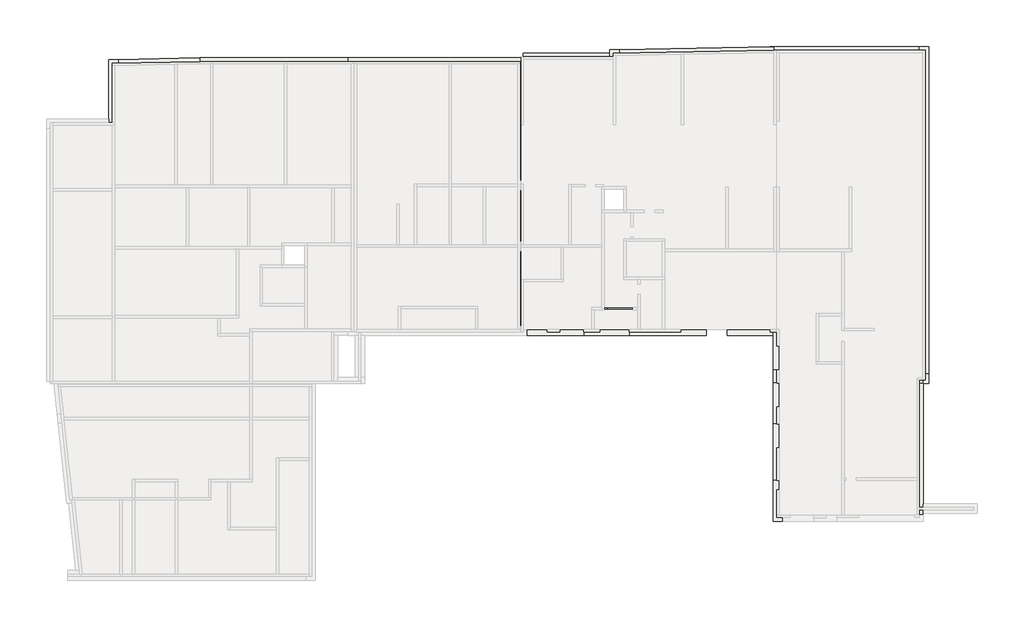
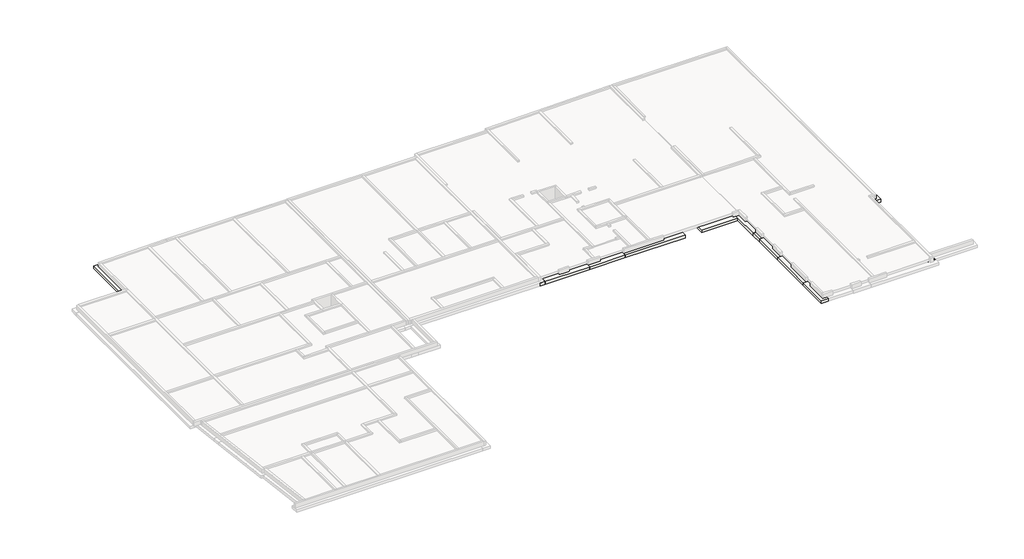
# One storey, part 5 of 5: 56 footings.
"""IFC4 building model written with IfcOpenShell, lengths in millimetres."""

from ifc_helpers import new_model, si_unit, frame, origin, place, context, project, spatial, polyline, outline, extrude, faceted_brep, element, save

model = new_model("IFC4")

# Units and contexts
model_context = context("Model", 3, world=origin())
ifc_project = project(units=[si_unit("LENGTHUNIT", "METRE", prefix="MILLI")], contexts=[model_context])

# Site, building, storey
site = spatial("IfcSite", under=ifc_project)
building = spatial("IfcBuilding", under=site)
storey = spatial("IfcBuildingStorey", under=building, Name="Base Mur soubassement", Elevation=-480.0)

# Footings
placement = place(None, origin())
element("IfcFooting", 1, ObjectType="Soubassement 30 cm/30 cm x 30 cm", at=placement, inside=storey, context=model_context, shape_type="Brep", body=[
    faceted_brep([(23329.3002373, 36682.4079561, -480.0), (24379.3002373, 36682.4079561, -480.0), (31528.7587922, 36682.4079561, -480.0), (32328.7587922, 36682.4079561, -480.0), (37308.398272, 36682.4079561, -480.0), (38358.398272, 36682.4079561, -480.0), (38358.398272, 37080.5992191, -480.0), (38358.398272, 37482.4079561, -480.0), (38068.6597873, 37482.4079561, -480.0), (23329.3002373, 37482.4079561, -480.0), (23329.3002373, 37482.4079561, -780.0), (38358.398272, 37482.4079561, -780.0), (38068.6597873, 37482.4079561, -780.0), (23329.3002373, 36682.4079561, -780.0), (38358.398272, 37080.5992191, -780.0), (38358.398272, 36682.4079561, -780.0), (37308.398272, 36682.4079561, -780.0), (32328.7587922, 36682.4079561, -780.0), (31528.7587922, 36682.4079561, -780.0), (24379.3002373, 36682.4079561, -780.0)], [[[0, 1, 2, 3, 4, 5, 6, 7, 8, 9]], [[10, 9, 8, 7, 11, 12]], [[13, 10, 12, 11, 14, 15, 16, 17, 18, 19]], [[0, 13, 19, 18, 17, 16, 15, 5, 4, 3, 2, 1]], [[0, 9, 10, 13]], [[7, 6, 5, 15, 14, 11]]]),
])
element("IfcFooting", 2, ObjectType="Soubassement 30 cm/30 cm x 30 cm", at=placement, inside=storey, context=model_context, shape_type="SweptSolid", body=[
    extrude(outline(polyline([(34393.5365752, 26372.4500352), (35193.5365752, 26372.4500352), (35193.5365752, 22073.8066571), (34393.5365752, 22073.8066571), (34393.5365752, 26372.4500352)])), frame((0.0, 0.0, -780.0), z_axis=(0.0, 0.0, 1.0), x_axis=(1.0, 0.0, 0.0)), (0.0, 0.0, 1.0), 300.0),
])
element("IfcFooting", 3, ObjectType="Soubassement 30 cm/30 cm x 30 cm", at=placement, inside=storey, context=model_context, shape_type="Brep", body=[
    faceted_brep([(4056.9078335, 32028.092309, -480.0), (3256.9078335, 32028.092309, -480.0), (3256.9078335, 32028.092309, -780.0), (4056.9078335, 32028.092309, -780.0), (4056.9078335, 36546.0880565, -480.0), (4056.9078335, 37346.2466037, -480.0), (3256.9078335, 37330.3186215, -480.0), (3256.9078335, 32328.092309, -480.0), (3256.9078335, 37330.3186215, -780.0), (3256.9078335, 32328.092309, -780.0), (4056.9078335, 37346.2466037, -780.0), (4056.9078335, 36546.0880565, -780.0)], [[[0, 1, 2, 3]], [[0, 4, 5, 6, 7, 1]], [[2, 1, 7, 6, 8, 9]], [[3, 2, 9, 8, 10, 11]], [[0, 3, 11, 10, 5, 4]], [[6, 5, 10, 8]]]),
])
element("IfcFooting", 4, ObjectType="Soubassement 30 cm/30 cm x 30 cm", at=placement, inside=storey, context=model_context, shape_type="Brep", body=[
    faceted_brep([(10903.7211106, 36682.4079561, -480.0), (10895.7579086, 37482.4079561, -480.0), (4056.9078335, 37346.2466037, -480.0), (4056.9078335, 36546.0880565, -480.0), (8517.5794193, 36634.8999283, -480.0), (9317.5794193, 36650.8279104, -480.0), (10895.7579086, 37482.4079561, -780.0), (4056.9078335, 37346.2466037, -780.0), (10903.7211106, 36682.4079561, -780.0), (9317.5794193, 36650.8279104, -780.0), (8517.5794193, 36634.8999283, -780.0), (4056.9078335, 36546.0880565, -780.0)], [[[0, 1, 2, 3, 4, 5]], [[1, 6, 7, 2]], [[6, 8, 9, 10, 11, 7]], [[8, 0, 5, 4, 3, 11, 10, 9]], [[3, 2, 7, 11]], [[1, 0, 8, 6]]]),
])
element("IfcFooting", 5, ObjectType="Soubassement 30 cm/30 cm x 30 cm", at=placement, inside=storey, context=model_context, shape_type="Brep", body=[
    faceted_brep([(10895.7579086, 37482.4079561, -480.0), (10903.7211106, 36682.4079561, -480.0), (11503.2656575, 36682.4079561, -480.0), (12303.2656575, 36682.4079561, -480.0), (17699.2548774, 36682.4079561, -480.0), (18499.2548774, 36682.4079561, -480.0), (23329.3002373, 36682.4079561, -480.0), (23329.3002373, 37482.4079561, -480.0), (10895.7579086, 37482.4079561, -780.0), (23329.3002373, 37482.4079561, -780.0), (10903.7211106, 36682.4079561, -780.0), (23329.3002373, 36682.4079561, -780.0), (18499.2548774, 36682.4079561, -780.0), (17699.2548774, 36682.4079561, -780.0), (12303.2656575, 36682.4079561, -780.0), (11503.2656575, 36682.4079561, -780.0)], [[[0, 1, 2, 3, 4, 5, 6, 7]], [[8, 0, 7, 9]], [[10, 8, 9, 11, 12, 13, 14, 15]], [[1, 10, 15, 14, 13, 12, 11, 6, 5, 4, 3, 2]], [[1, 0, 8, 10]], [[7, 6, 11, 9]]]),
])
element("IfcFooting", 6, ObjectType="Soubassement 30 cm/30 cm x 30 cm", at=placement, inside=storey, context=model_context, shape_type="Brep", body=[
    faceted_brep([(72098.498036, 10114.8529282, -480.0), (72098.498036, 38441.1158593, -480.0), (71298.498036, 38441.1158593, -480.0), (71298.498036, 37641.1158593, -480.0), (71298.498036, 15061.7009875, -480.0), (71298.498036, 14261.7009875, -480.0), (71298.498036, 10914.8529282, -480.0), (71298.498036, 10114.8529282, -480.0), (71617.0236897, 10114.8529282, -480.0), (71298.498036, 10114.8529282, -780.0), (71298.498036, 38441.1158593, -780.0), (71298.498036, 37641.1158593, -780.0), (71298.498036, 15061.7009875, -780.0), (71298.498036, 14261.7009875, -780.0), (71298.498036, 10914.8529282, -780.0), (72098.498036, 10114.8529282, -780.0), (71617.0236897, 10114.8529282, -780.0), (72098.498036, 38441.1158593, -780.0)], [[[0, 1, 2, 3, 4, 5, 6, 7, 8]], [[9, 7, 6, 5, 4, 3, 2, 10, 11, 12, 13, 14]], [[15, 16, 9, 14, 13, 12, 11, 10, 17]], [[0, 15, 17, 1]], [[0, 8, 7, 9, 16, 15]], [[2, 1, 17, 10]]]),
])
element("IfcFooting", 7, ObjectType="Soubassement 30 cm/30 cm x 30 cm", at=placement, inside=storey, context=model_context, shape_type="Brep", body=[
    faceted_brep([(71617.0236897, -917.313191, -780.0), (71617.0236897, -917.313191, -480.0), (70817.0236897, -917.313191, -480.0), (70817.0236897, -917.313191, -780.0), (70817.0236897, 10914.8529282, -480.0), (70817.0236897, 2504.0314703, -480.0), (70817.0236897, 1704.0314703, -480.0), (70817.0236897, -637.3118451, -480.0), (71617.0236897, -637.3118451, -480.0), (71617.0236897, 11.008028, -480.0), (71617.0236897, 10114.8529282, -480.0), (71298.498036, 10114.8529282, -480.0), (71298.498036, 10914.8529282, -480.0), (71617.0236897, -637.3118451, -780.0), (71617.0236897, 11.008028, -780.0), (71617.0236897, 10114.8529282, -780.0), (70817.0236897, -637.3118451, -780.0), (70817.0236897, 1704.0314703, -780.0), (70817.0236897, 2504.0314703, -780.0), (70817.0236897, 10914.8529282, -780.0), (71298.498036, 10914.8529282, -780.0), (71298.498036, 10114.8529282, -780.0)], [[[0, 1, 2, 3]], [[4, 5, 6, 7, 2, 1, 8, 9, 10, 11, 12]], [[1, 0, 13, 14, 15, 10, 9, 8]], [[0, 3, 16, 17, 18, 19, 20, 21, 15, 14, 13]], [[3, 2, 7, 6, 5, 4, 19, 18, 17, 16]], [[11, 21, 20, 12]], [[19, 4, 12, 20]], [[21, 11, 10, 15]]]),
])
element("IfcFooting", 8, ObjectType="Soubassement 30 cm/30 cm x 30 cm", at=placement, inside=storey, context=model_context, shape_type="Brep", body=[
    faceted_brep([(64513.2256523, 14241.7009875, -480.0), (65313.2256523, 14241.7009875, -480.0), (65313.2256523, 14241.7009875, -780.0), (64513.2256523, 14241.7009875, -780.0), (65313.2256523, -637.3118451, -480.0), (64513.2256523, 12249.233281, -480.0), (64513.2256523, 11449.233281, -480.0), (64513.2256523, -637.3118451, -480.0), (64513.2256523, -637.3118451, -780.0), (64513.2256523, 12249.233281, -780.0), (64513.2256523, 11449.233281, -780.0), (65313.2256523, -637.3118451, -780.0)], [[[0, 1, 2, 3]], [[4, 1, 0, 5, 6, 7]], [[8, 7, 6, 5, 0, 3, 9, 10]], [[11, 8, 10, 9, 3, 2]], [[4, 11, 2, 1]], [[4, 7, 8, 11]]]),
])
element("IfcFooting", 9, ObjectType="Soubassement 30 cm/30 cm x 30 cm", at=placement, inside=storey, context=model_context, shape_type="SweptSolid", body=[
    extrude(outline(polyline([(70817.0236897, 2504.0314703), (70817.0236897, 1704.0314703), (65324.2458389, 1704.0314703), (65324.2458389, 2504.0314703), (70817.0236897, 2504.0314703)])), frame((0.0, 0.0, -780.0), z_axis=(0.0, 0.0, 1.0), x_axis=(1.0, 0.0, 0.0)), (0.0, 0.0, 1.0), 300.0),
])
element("IfcFooting", 10, ObjectType="Soubassement 30 cm/30 cm x 30 cm", at=placement, inside=storey, context=model_context, shape_type="Brep", body=[
    faceted_brep([(62372.0019144, 12249.233281, -480.0), (62372.0019144, 11449.233281, -480.0), (64513.2256523, 11449.233281, -480.0), (64513.2256523, 12249.233281, -480.0), (63172.0019144, 12249.233281, -480.0), (62372.0019144, 11449.233281, -780.0), (64513.2256523, 11449.233281, -780.0), (62372.0019144, 12249.233281, -780.0), (63172.0019144, 12249.233281, -780.0), (64513.2256523, 12249.233281, -780.0)], [[[0, 1, 2, 3, 4]], [[1, 5, 6, 2]], [[5, 7, 8, 9, 6]], [[7, 0, 4, 3, 9, 8]], [[3, 2, 6, 9]], [[1, 0, 7, 5]]]),
])
element("IfcFooting", 11, ObjectType="Soubassement 30 cm/30 cm x 30 cm", at=placement, inside=storey, context=model_context, shape_type="Brep", body=[
    faceted_brep([(63172.0019144, 16304.7371374, -480.0), (62372.0019144, 16304.7371374, -480.0), (62372.0019144, 12249.233281, -480.0), (63172.0019144, 12249.233281, -480.0), (63172.0019144, 15504.7371374, -480.0), (62372.0019144, 16304.7371374, -780.0), (62372.0019144, 12249.233281, -780.0), (63172.0019144, 16304.7371374, -780.0), (63172.0019144, 15504.7371374, -780.0), (63172.0019144, 12249.233281, -780.0)], [[[0, 1, 2, 3, 4]], [[1, 5, 6, 2]], [[5, 7, 8, 9, 6]], [[7, 0, 4, 3, 9, 8]], [[3, 2, 6, 9]], [[1, 0, 7, 5]]]),
])
element("IfcFooting", 12, ObjectType="Soubassement 30 cm/30 cm x 30 cm", at=placement, inside=storey, context=model_context, shape_type="Brep", body=[
    faceted_brep([(64512.3933514, 20922.6249159, -480.0), (64512.3933514, 16304.7371374, -480.0), (64512.3933514, 15504.7371374, -480.0), (64512.3933514, 14261.7009875, -480.0), (65312.3933514, 14261.7009875, -480.0), (65312.3933514, 15061.7009875, -480.0), (65312.3933514, 20922.6249159, -480.0), (65312.3933514, 20922.6249159, -780.0), (65312.3933514, 14261.7009875, -780.0), (65312.3933514, 15061.7009875, -780.0), (64512.3933514, 20922.6249159, -780.0), (64512.3933514, 14261.7009875, -780.0), (64512.3933514, 15504.7371374, -780.0), (64512.3933514, 16304.7371374, -780.0)], [[[0, 1, 2, 3, 4, 5, 6]], [[7, 6, 5, 4, 8, 9]], [[10, 7, 9, 8, 11, 12, 13]], [[0, 10, 13, 12, 11, 3, 2, 1]], [[4, 3, 11, 8]], [[0, 6, 7, 10]]]),
])
element("IfcFooting", 13, ObjectType="Soubassement 30 cm/30 cm x 30 cm", at=placement, inside=storey, context=model_context, shape_type="SweptSolid", body=[
    extrude(outline(polyline([(64512.3933514, 16304.7371374), (64512.3933514, 15504.7371374), (63172.0019144, 15504.7371374), (63172.0019144, 16304.7371374), (64512.3933514, 16304.7371374)])), frame((0.0, 0.0, -780.0), z_axis=(0.0, 0.0, 1.0), x_axis=(1.0, 0.0, 0.0)), (0.0, 0.0, 1.0), 300.0),
])
element("IfcFooting", 14, ObjectType="Soubassement 30 cm/30 cm x 30 cm", at=placement, inside=storey, context=model_context, shape_type="SweptSolid", body=[
    extrude(outline(polyline([(65312.3933514, 14261.7009875), (65312.3933514, 15061.7009875), (71298.498036, 15061.7009875), (71298.498036, 14261.7009875), (65312.3933514, 14261.7009875)])), frame((0.0, 0.0, -780.0), z_axis=(0.0, 0.0, 1.0), x_axis=(1.0, 0.0, 0.0)), (0.0, 0.0, 1.0), 300.0),
])
element("IfcFooting", 15, ObjectType="Soubassement 30 cm/30 cm x 30 cm", at=placement, inside=storey, context=model_context, shape_type="Brep", body=[
    faceted_brep([(59853.8975177, 11276.7065018, -480.0), (59852.9134361, 11276.7065018, -480.0), (59053.8975177, 11276.7065018, -480.0), (59053.8975177, 11276.7065018, -780.0), (59852.9134361, 11276.7065018, -780.0), (59853.8975177, 11276.7065018, -780.0), (59053.8975177, 14660.5941452, -480.0), (59853.8975177, 14660.5941452, -480.0), (59853.8975177, 14660.5941452, -780.0), (59053.8975177, 14660.5941452, -780.0), (59053.8975177, 14157.8380715, -480.0), (59053.8975177, 14157.8380715, -780.0)], [[[0, 1, 2, 3, 4, 5]], [[6, 7, 8, 9]], [[0, 7, 6, 10, 2, 1]], [[3, 2, 10, 6, 9, 11]], [[5, 4, 3, 11, 9, 8]], [[0, 5, 8, 7]]]),
])
element("IfcFooting", 16, ObjectType="Soubassement 30 cm/30 cm x 30 cm", at=placement, inside=storey, context=model_context, shape_type="Brep", body=[
    faceted_brep([(59852.9134361, 10176.7065018, -480.0), (59053.8975177, 10176.7065018, -480.0), (59052.9134361, 10176.7065018, -480.0), (59052.9134361, 10176.7065018, -780.0), (59053.8975177, 10176.7065018, -780.0), (59852.9134361, 10176.7065018, -780.0), (59052.9134361, 11276.7065018, -480.0), (59053.8975177, 11276.7065018, -480.0), (59852.9134361, 11276.7065018, -480.0), (59852.9134361, 11276.7065018, -780.0), (59053.8975177, 11276.7065018, -780.0), (59052.9134361, 11276.7065018, -780.0)], [[[0, 1, 2, 3, 4, 5]], [[6, 7, 8, 9, 10, 11]], [[0, 8, 7, 6, 2, 1]], [[3, 2, 6, 11]], [[5, 4, 3, 11, 10, 9]], [[0, 5, 9, 8]]]),
])
element("IfcFooting", 17, ObjectType="Soubassement 30 cm/30 cm x 30 cm", at=placement, inside=storey, context=model_context, shape_type="Brep", body=[
    faceted_brep([(59853.8975177, 6727.955072, -480.0), (59053.8975177, 6727.955072, -480.0), (59053.8975177, 6727.955072, -780.0), (59853.8975177, 6727.955072, -780.0), (59053.8975177, 10176.7065018, -480.0), (59852.9134361, 10176.7065018, -480.0), (59853.8975177, 10176.7065018, -480.0), (59853.8975177, 10176.7065018, -780.0), (59852.9134361, 10176.7065018, -780.0), (59053.8975177, 10176.7065018, -780.0)], [[[0, 1, 2, 3]], [[4, 5, 6, 7, 8, 9]], [[0, 6, 5, 4, 1]], [[2, 1, 4, 9]], [[3, 2, 9, 8, 7]], [[0, 3, 7, 6]]]),
])
element("IfcFooting", 18, ObjectType="Soubassement 30 cm/30 cm x 30 cm", at=placement, inside=storey, context=model_context, shape_type="Brep", body=[
    faceted_brep([(59853.8975177, 1982.6881549, -480.0), (59852.8933514, 1982.6881549, -480.0), (59053.8975177, 1982.6881549, -480.0), (59053.8975177, 1982.6881549, -780.0), (59852.8933514, 1982.6881549, -780.0), (59853.8975177, 1982.6881549, -780.0), (59053.8975177, 6727.955072, -480.0), (59853.8975177, 6727.955072, -480.0), (59853.8975177, 6727.955072, -780.0), (59053.8975177, 6727.955072, -780.0)], [[[0, 1, 2, 3, 4, 5]], [[6, 7, 8, 9]], [[0, 7, 6, 2, 1]], [[3, 2, 6, 9]], [[5, 4, 3, 9, 8]], [[0, 5, 8, 7]]]),
])
element("IfcFooting", 19, ObjectType="Soubassement 30 cm/30 cm x 30 cm", at=placement, inside=storey, context=model_context, shape_type="Brep", body=[
    faceted_brep([(59052.8933514, 1982.6881549, -480.0), (59053.8975177, 1982.6881549, -480.0), (59852.8933514, 1982.6881549, -480.0), (59852.8933514, 1982.6881549, -780.0), (59053.8975177, 1982.6881549, -780.0), (59052.8933514, 1982.6881549, -780.0), (59852.8933514, -1433.5235574, -480.0), (59852.8933514, -633.5235574, -480.0), (59052.8933514, -1433.5235574, -480.0), (59052.8933514, -1433.5235574, -780.0), (59852.8933514, -1433.5235574, -780.0), (59852.8933514, -633.5235574, -780.0)], [[[0, 1, 2, 3, 4, 5]], [[6, 7, 2, 1, 0, 8]], [[9, 8, 0, 5]], [[10, 9, 5, 4, 3, 11]], [[6, 10, 11, 3, 2, 7]], [[6, 8, 9, 10]]]),
])
element("IfcFooting", 20, ObjectType="Soubassement 30 cm/30 cm x 30 cm", at=placement, inside=storey, context=model_context, shape_type="SweptSolid", body=[
    extrude(outline(polyline([(55181.1686241, 14157.8380715), (55181.1686241, 14957.8380715), (59853.8975177, 14957.8380715), (59853.8975177, 14660.5941452), (59053.8975177, 14660.5941452), (59053.8975177, 14157.8380715), (55181.1686241, 14157.8380715)])), frame((0.0, 0.0, -780.0), z_axis=(0.0, 0.0, 1.0), x_axis=(1.0, 0.0, 0.0)), (0.0, 0.0, 1.0), 300.0),
])
element("IfcFooting", 21, ObjectType="Soubassement 30 cm/30 cm x 30 cm", at=placement, inside=storey, context=model_context, shape_type="Brep", body=[
    faceted_brep([(53429.9149229, 14957.8380717, -480.0), (53429.9149229, 14157.8380717, -480.0), (53429.9149229, 14157.8380717, -780.0), (53429.9149229, 14957.8380717, -780.0), (46971.20252, 14157.8380717, -480.0), (46971.20252, 14162.1405969, -480.0), (46971.20252, 14957.8380717, -480.0), (46971.20252, 14957.8380717, -780.0), (46971.20252, 14162.1405969, -780.0), (46971.20252, 14157.8380717, -780.0), (50224.9149229, 14957.8380717, -480.0), (49424.9149229, 14957.8380717, -480.0), (48187.6540405, 14957.8380717, -480.0), (47387.6540405, 14957.8380717, -480.0), (47387.6540405, 14957.8380717, -780.0), (48187.6540405, 14957.8380717, -780.0), (49424.9149229, 14957.8380717, -780.0), (50224.9149229, 14957.8380717, -780.0)], [[[0, 1, 2, 3]], [[4, 5, 6, 7, 8, 9]], [[0, 10, 11, 12, 13, 6, 5, 4, 1]], [[2, 1, 4, 9]], [[3, 2, 9, 8, 7, 14, 15, 16, 17]], [[0, 3, 17, 16, 15, 14, 7, 6, 13, 12, 11, 10]]]),
])
element("IfcFooting", 22, ObjectType="Soubassement 30 cm/30 cm x 30 cm", at=placement, inside=storey, context=model_context, shape_type="Brep", body=[
    faceted_brep([(59092.1504559, 21722.6249159, -480.0), (59092.1504559, 20922.6249159, -480.0), (59092.1504559, 20922.6249159, -780.0), (59092.1504559, 21722.6249159, -780.0), (49424.9149229, 20922.6249159, -480.0), (50224.9149229, 20922.6249159, -480.0), (58792.2183923, 21722.6249159, -480.0), (55555.0439194, 21722.6249159, -480.0), (54755.0439194, 21722.6249159, -480.0), (50224.9149229, 21722.6249159, -480.0), (49424.9149229, 21722.6249159, -480.0), (49424.9149229, 21722.6249159, -780.0), (58792.2183923, 21722.6249159, -780.0), (55555.0439194, 21722.6249159, -780.0), (54755.0439194, 21722.6249159, -780.0), (50224.9149229, 21722.6249159, -780.0), (49424.9149229, 20922.6249159, -780.0), (50224.9149229, 20922.6249159, -780.0)], [[[0, 1, 2, 3]], [[4, 5, 1, 0, 6, 7, 8, 9, 10]], [[11, 10, 9, 8, 7, 6, 0, 3, 12, 13, 14, 15]], [[16, 11, 15, 14, 13, 12, 3, 2, 17]], [[4, 16, 17, 2, 1, 5]], [[4, 10, 11, 16]]]),
])
element("IfcFooting", 23, ObjectType="Soubassement 30 cm/30 cm x 30 cm", at=placement, inside=storey, context=model_context, shape_type="Brep", body=[
    faceted_brep([(59352.3933514, 20922.6249159, -480.0), (64512.3933514, 20922.6249159, -480.0), (65312.3933514, 20922.6249159, -480.0), (65913.8694348, 20922.6249159, -480.0), (65913.8694348, 21722.6249159, -480.0), (65113.8694348, 21722.6249159, -480.0), (59852.3933514, 21722.6249159, -480.0), (59352.3933514, 21722.6249159, -480.0), (59352.3933514, 21722.6249159, -780.0), (65913.8694348, 21722.6249159, -780.0), (65113.8694348, 21722.6249159, -780.0), (59852.3933514, 21722.6249159, -780.0), (59352.3933514, 20922.6249159, -780.0), (65913.8694348, 20922.6249159, -780.0), (65312.3933514, 20922.6249159, -780.0), (64512.3933514, 20922.6249159, -780.0)], [[[0, 1, 2, 3, 4, 5, 6, 7]], [[8, 7, 6, 5, 4, 9, 10, 11]], [[12, 8, 11, 10, 9, 13, 14, 15]], [[0, 12, 15, 14, 13, 3, 2, 1]], [[4, 3, 13, 9]], [[0, 7, 8, 12]]]),
])
element("IfcFooting", 24, ObjectType="Soubassement 30 cm/30 cm x 30 cm", at=placement, inside=storey, context=model_context, shape_type="SweptSolid", body=[
    extrude(outline(polyline([(54755.0439194, 37538.6297893), (55555.0439194, 37538.6297893), (55555.0439194, 21722.6249159), (54755.0439194, 21722.6249159), (54755.0439194, 37538.6297893)])), frame((0.0, 0.0, -780.0), z_axis=(0.0, 0.0, 1.0), x_axis=(1.0, 0.0, 0.0)), (0.0, 0.0, 1.0), 300.0),
])
element("IfcFooting", 25, ObjectType="Soubassement 30 cm/30 cm x 30 cm", at=placement, inside=storey, context=model_context, shape_type="SweptSolid", body=[
    extrude(outline(polyline([(65113.8694348, 37621.1158593), (65913.8694348, 37621.1158593), (65913.8694348, 21722.6249159), (65113.8694348, 21722.6249159), (65113.8694348, 37621.1158593)])), frame((0.0, 0.0, -780.0), z_axis=(0.0, 0.0, 1.0), x_axis=(1.0, 0.0, 0.0)), (0.0, 0.0, 1.0), 300.0),
])
element("IfcFooting", 26, ObjectType="Soubassement 30 cm/30 cm x 30 cm", at=placement, inside=storey, context=model_context, shape_type="Brep", body=[
    faceted_brep([(47577.0291518, 22282.4542325, -480.0), (46777.0291518, 22282.4542325, -480.0), (46777.0291518, 22282.4542325, -780.0), (47577.0291518, 22282.4542325, -780.0), (47577.0291518, 22582.4542325, -480.0), (47577.0291518, 24200.9913711, -480.0), (46777.0291518, 24200.9913711, -480.0), (46777.0291518, 22582.4542325, -480.0), (46777.0291518, 24200.9913711, -780.0), (46777.0291518, 22582.4542325, -780.0), (47577.0291518, 24200.9913711, -780.0), (47577.0291518, 22582.4542325, -780.0)], [[[0, 1, 2, 3]], [[0, 4, 5, 6, 7, 1]], [[2, 1, 7, 6, 8, 9]], [[3, 2, 9, 8, 10, 11]], [[0, 3, 11, 10, 5, 4]], [[6, 5, 10, 8]]]),
])
element("IfcFooting", 27, ObjectType="Soubassement 30 cm/30 cm x 30 cm", at=placement, inside=storey, context=model_context, shape_type="Brep", body=[
    faceted_brep([(46707.3903862, 24200.9913711, -480.0), (46707.3903862, 25000.9913711, -480.0), (46707.3903862, 25000.9913711, -780.0), (46707.3903862, 24200.9913711, -780.0), (49092.5494774, 25000.9913711, -480.0), (49092.5494774, 24200.9913711, -480.0), (49092.5494774, 24200.9913711, -780.0), (49092.5494774, 25000.9913711, -780.0), (46777.0291518, 24200.9913711, -480.0), (47577.0291518, 24200.9913711, -480.0), (47577.0291518, 24200.9913711, -780.0), (46777.0291518, 24200.9913711, -780.0)], [[[0, 1, 2, 3]], [[4, 5, 6, 7]], [[0, 8, 9, 5, 4, 1]], [[2, 1, 4, 7]], [[3, 2, 7, 6, 10, 11]], [[0, 3, 11, 10, 6, 5, 9, 8]]]),
])
element("IfcFooting", 28, ObjectType="Soubassement 30 cm/30 cm x 30 cm", at=placement, inside=storey, context=model_context, shape_type="Brep", body=[
    faceted_brep([(44357.2462422, 24500.9913711, -480.0), (45157.2462422, 24500.9913711, -480.0), (45157.2462422, 24500.9913711, -780.0), (44357.2462422, 24500.9913711, -780.0), (44357.2462422, 22072.4500352, -480.0), (44357.2462422, 21272.4500352, -480.0), (44357.2462422, 19184.2379364, -480.0), (44357.2462422, 18384.2379364, -480.0), (44357.2462422, 16802.6881549, -480.0), (44357.2462422, 16002.6881549, -480.0), (45157.2462422, 16002.6881549, -480.0), (45157.2462422, 16002.6881549, -780.0), (44357.2462422, 16002.6881549, -780.0), (44357.2462422, 16802.6881549, -780.0), (44357.2462422, 18384.2379364, -780.0), (44357.2462422, 19184.2379364, -780.0), (44357.2462422, 21272.4500352, -780.0), (44357.2462422, 22072.4500352, -780.0)], [[[0, 1, 2, 3]], [[0, 4, 5, 6, 7, 8, 9, 10, 1]], [[2, 1, 10, 11]], [[3, 2, 11, 12, 13, 14, 15, 16, 17]], [[0, 3, 17, 16, 15, 14, 13, 12, 9, 8, 7, 6, 5, 4]], [[10, 9, 12, 11]]]),
])
element("IfcFooting", 29, ObjectType="Soubassement 30 cm/30 cm x 30 cm", at=placement, inside=storey, context=model_context, shape_type="SweptSolid", body=[
    extrude(outline(polyline([(49824.9149229, 25000.9913711), (49824.9149229, 24200.9913711), (49092.5494774, 24200.9913711), (49092.5494774, 25000.9913711), (49824.9149229, 25000.9913711)])), frame((0.0, 0.0, -780.0), z_axis=(0.0, 0.0, 1.0), x_axis=(1.0, 0.0, 0.0)), (0.0, 0.0, 1.0), 300.0),
])
element("IfcFooting", 30, ObjectType="Soubassement 30 cm/30 cm x 30 cm", at=placement, inside=storey, context=model_context, shape_type="Brep", body=[
    faceted_brep([(38166.5033212, 26357.8817009, -780.0), (38166.5033212, 26357.8817009, -480.0), (38166.5033212, 26372.4500352, -480.0), (38166.5033212, 26372.4500352, -780.0), (44162.2590145, 27157.8817009, -780.0), (44162.2590145, 27157.8817009, -480.0), (44162.2590145, 26357.8817009, -480.0), (44162.2590145, 26357.8817009, -780.0), (38358.398272, 26357.8817009, -480.0), (41566.5033212, 26357.8817009, -480.0), (42366.5033212, 26357.8817009, -480.0), (38358.398272, 27157.8817009, -480.0), (38358.398272, 26372.4500352, -480.0), (38358.398272, 27157.8817009, -780.0), (42366.5033212, 26357.8817009, -780.0), (41566.5033212, 26357.8817009, -780.0), (38358.398272, 26357.8817009, -780.0), (38358.398272, 26372.4500352, -780.0)], [[[0, 1, 2, 3]], [[4, 5, 6, 7]], [[1, 8, 9, 10, 6, 5, 11, 12, 2]], [[5, 4, 13, 11]], [[4, 7, 14, 15, 16, 0, 3, 17, 13]], [[1, 0, 16, 15, 14, 7, 6, 10, 9, 8]], [[12, 17, 3, 2]], [[17, 12, 11, 13]]]),
])
element("IfcFooting", 31, ObjectType="Soubassement 30 cm/30 cm x 30 cm", at=placement, inside=storey, context=model_context, shape_type="SweptSolid", body=[
    extrude(outline(polyline([(44162.2590145, 26357.8817009), (44162.2590145, 27157.8817009), (44757.2462422, 27157.8817009), (44757.2462422, 26357.8817009), (44162.2590145, 26357.8817009)])), frame((0.0, 0.0, -780.0), z_axis=(0.0, 0.0, 1.0), x_axis=(1.0, 0.0, 0.0)), (0.0, 0.0, 1.0), 300.0),
])
element("IfcFooting", 32, ObjectType="Soubassement 30 cm/30 cm x 30 cm", at=placement, inside=storey, context=model_context, shape_type="SweptSolid", body=[
    extrude(outline(polyline([(42366.5033212, 22072.4500352), (41566.5033212, 22072.4500352), (41566.5033212, 26357.8817009), (42366.5033212, 26357.8817009), (42366.5033212, 22072.4500352)])), frame((0.0, 0.0, -780.0), z_axis=(0.0, 0.0, 1.0), x_axis=(1.0, 0.0, 0.0)), (0.0, 0.0, 1.0), 300.0),
])
element("IfcFooting", 33, ObjectType="Soubassement 30 cm/30 cm x 30 cm", at=placement, inside=storey, context=model_context, shape_type="Brep", body=[
    faceted_brep([(37868.7313075, 21272.4500352, -780.0), (37868.7313075, 21272.4500352, -480.0), (37868.7313075, 21273.8066571, -480.0), (37868.7313075, 21273.8066571, -780.0), (38358.398272, 21272.4500352, -480.0), (40928.6220947, 21272.4500352, -480.0), (41728.6220947, 21272.4500352, -480.0), (44357.2462422, 21272.4500352, -480.0), (44357.2462422, 22072.4500352, -480.0), (42366.5033212, 22072.4500352, -480.0), (41566.5033212, 22072.4500352, -480.0), (38358.398272, 22072.4500352, -480.0), (38358.398272, 21273.8066571, -480.0), (38358.398272, 21272.4500352, -780.0), (40928.6220947, 21272.4500352, -780.0), (41728.6220947, 21272.4500352, -780.0), (44357.2462422, 21272.4500352, -780.0), (38358.398272, 21273.8066571, -780.0), (38358.398272, 22072.4500352, -780.0), (41566.5033212, 22072.4500352, -780.0), (42366.5033212, 22072.4500352, -780.0), (44357.2462422, 22072.4500352, -780.0)], [[[0, 1, 2, 3]], [[1, 4, 5, 6, 7, 8, 9, 10, 11, 12, 2]], [[1, 0, 13, 14, 15, 16, 7, 6, 5, 4]], [[16, 15, 14, 13, 0, 3, 17, 18, 19, 20, 21]], [[8, 21, 20, 19, 18, 11, 10, 9]], [[8, 7, 16, 21]], [[12, 17, 3, 2]], [[17, 12, 11, 18]]]),
])
element("IfcFooting", 34, ObjectType="Soubassement 30 cm/30 cm x 30 cm", at=placement, inside=storey, context=model_context, shape_type="Brep", body=[
    faceted_brep([(40928.6220947, 18384.2379364, -480.0), (41728.6220947, 18384.2379364, -480.0), (41728.6220947, 19184.2379364, -480.0), (41728.6220947, 21272.4500352, -480.0), (40928.6220947, 21272.4500352, -480.0), (40928.6220947, 19184.2379364, -480.0), (40928.6220947, 18384.2379364, -780.0), (40928.6220947, 21272.4500352, -780.0), (40928.6220947, 19184.2379364, -780.0), (41728.6220947, 18384.2379364, -780.0), (41728.6220947, 21272.4500352, -780.0), (41728.6220947, 19184.2379364, -780.0)], [[[0, 1, 2, 3, 4, 5]], [[6, 0, 5, 4, 7, 8]], [[9, 6, 8, 7, 10, 11]], [[1, 9, 11, 10, 3, 2]], [[4, 3, 10, 7]], [[1, 0, 6, 9]]]),
])
element("IfcFooting", 35, ObjectType="Soubassement 30 cm/30 cm x 30 cm", at=placement, inside=storey, context=model_context, shape_type="Brep", body=[
    faceted_brep([(44297.5546594, 14962.1405969, -480.0), (44297.5546594, 16002.6881549, -480.0), (44297.5546594, 16802.6881549, -480.0), (43497.5546594, 16802.6881549, -480.0), (43497.5546594, 14962.1405969, -480.0), (43497.5546594, 14962.1405969, -780.0), (43497.5546594, 16802.6881549, -780.0), (44297.5546594, 14962.1405969, -780.0), (44297.5546594, 16802.6881549, -780.0), (44297.5546594, 16002.6881549, -780.0)], [[[0, 1, 2, 3, 4]], [[5, 4, 3, 6]], [[7, 5, 6, 8, 9]], [[0, 7, 9, 8, 2, 1]], [[3, 2, 8, 6]], [[0, 4, 5, 7]]]),
])
element("IfcFooting", 36, ObjectType="Soubassement 30 cm/30 cm x 30 cm", at=placement, inside=storey, context=model_context, shape_type="Brep", body=[
    faceted_brep([(37848.6597873, 14162.6998135, -780.0), (37848.6597873, 14162.6998135, -480.0), (37848.6597873, 14164.3593187, -480.0), (37848.6597873, 14164.3593187, -780.0), (43150.9645277, 14962.6998135, -780.0), (43150.9645277, 14962.6998135, -480.0), (43150.9645277, 14962.1405969, -480.0), (43150.9645277, 14162.6998135, -480.0), (43150.9645277, 14162.6998135, -780.0), (43150.9645277, 14962.1405969, -780.0), (38358.398272, 14962.6998135, -480.0), (38358.398272, 14164.3593187, -480.0), (38358.398272, 14962.6998135, -780.0), (38358.398272, 14164.3593187, -780.0)], [[[0, 1, 2, 3]], [[4, 5, 6, 7, 8, 9]], [[1, 7, 6, 5, 10, 11, 2]], [[5, 4, 12, 10]], [[4, 9, 8, 0, 3, 13, 12]], [[1, 0, 8, 7]], [[11, 13, 3, 2]], [[13, 11, 10, 12]]]),
])
element("IfcFooting", 37, ObjectType="Soubassement 30 cm/30 cm x 30 cm", at=placement, inside=storey, context=model_context, shape_type="Brep", body=[
    faceted_brep([(38068.6597873, 19184.2379364, -480.0), (38068.6597873, 19184.2379364, -780.0), (38068.6597873, 18384.2379364, -780.0), (38068.6597873, 18384.2379364, -480.0), (38358.398272, 18384.2379364, -480.0), (40928.6220947, 18384.2379364, -480.0), (40928.6220947, 19184.2379364, -480.0), (38358.398272, 19184.2379364, -480.0), (40928.6220947, 19184.2379364, -780.0), (38358.398272, 19184.2379364, -780.0), (40928.6220947, 18384.2379364, -780.0), (38358.398272, 18384.2379364, -780.0)], [[[0, 1, 2, 3]], [[0, 3, 4, 5, 6, 7]], [[1, 0, 7, 6, 8, 9]], [[2, 1, 9, 8, 10, 11]], [[3, 2, 11, 10, 5, 4]], [[6, 5, 10, 8]]]),
    faceted_brep([(44357.2462422, 19184.2379364, -780.0), (44357.2462422, 19184.2379364, -480.0), (44357.2462422, 18384.2379364, -480.0), (44357.2462422, 18384.2379364, -780.0), (41728.6220947, 19184.2379364, -480.0), (41728.6220947, 18384.2379364, -480.0), (41728.6220947, 19184.2379364, -780.0), (41728.6220947, 18384.2379364, -780.0)], [[[0, 1, 2, 3]], [[2, 1, 4, 5]], [[1, 0, 6, 4]], [[0, 3, 7, 6]], [[3, 2, 5, 7]], [[5, 4, 6, 7]]]),
])
element("IfcFooting", 38, ObjectType="Soubassement 30 cm/30 cm x 30 cm", at=placement, inside=storey, context=model_context, shape_type="Brep", body=[
    faceted_brep([(47387.6540405, 18865.2786309, -480.0), (48187.6540405, 18865.2786309, -480.0), (48187.6540405, 18865.2786309, -780.0), (47387.6540405, 18865.2786309, -780.0), (47387.6540405, 18565.2786309, -480.0), (47387.6540405, 16802.6881549, -480.0), (47387.6540405, 16002.6881549, -480.0), (47387.6540405, 14957.8380717, -480.0), (48187.6540405, 14957.8380717, -480.0), (48187.6540405, 18565.2786309, -480.0), (48187.6540405, 14957.8380717, -780.0), (48187.6540405, 18565.2786309, -780.0), (47387.6540405, 14957.8380717, -780.0), (47387.6540405, 16002.6881549, -780.0), (47387.6540405, 16802.6881549, -780.0), (47387.6540405, 18565.2786309, -780.0)], [[[0, 1, 2, 3]], [[0, 4, 5, 6, 7, 8, 9, 1]], [[2, 1, 9, 8, 10, 11]], [[3, 2, 11, 10, 12, 13, 14, 15]], [[0, 3, 15, 14, 13, 12, 7, 6, 5, 4]], [[8, 7, 12, 10]]]),
])
element("IfcFooting", 39, ObjectType="Soubassement 30 cm/30 cm x 30 cm", at=placement, inside=storey, context=model_context, shape_type="SweptSolid", body=[
    extrude(outline(polyline([(47387.6540405, 16802.6881549), (47387.6540405, 16002.6881549), (45162.6540405, 16002.6881549), (45162.6540405, 16802.6881549), (47387.6540405, 16802.6881549)])), frame((0.0, 0.0, -780.0), z_axis=(0.0, 0.0, 1.0), x_axis=(1.0, 0.0, 0.0)), (0.0, 0.0, 1.0), 300.0),
])
element("IfcFooting", 40, ObjectType="Soubassement 30 cm/30 cm x 30 cm", at=placement, inside=storey, context=model_context, shape_type="SweptSolid", body=[
    extrude(outline(polyline([(44357.2462422, 16802.6881549), (44357.2462422, 16002.6881549), (44297.5546594, 16002.6881549), (44297.5546594, 16802.6881549), (44357.2462422, 16802.6881549)])), frame((0.0, 0.0, -780.0), z_axis=(0.0, 0.0, 1.0), x_axis=(1.0, 0.0, 0.0)), (0.0, 0.0, 1.0), 300.0),
])
element("IfcFooting", 41, ObjectType="Soubassement 30 cm/30 cm x 30 cm", at=placement, inside=storey, context=model_context, shape_type="Brep", body=[
    faceted_brep([(46971.20252, 14962.1405969, -480.0), (46971.20252, 14957.8380717, -480.0), (46971.20252, 14162.1405969, -480.0), (46971.20252, 14162.1405969, -780.0), (46971.20252, 14957.8380717, -780.0), (46971.20252, 14962.1405969, -780.0), (43150.9645277, 14162.1405969, -480.0), (43150.9645277, 14162.6998135, -480.0), (43150.9645277, 14962.1405969, -480.0), (43150.9645277, 14962.1405969, -780.0), (43150.9645277, 14162.6998135, -780.0), (43150.9645277, 14162.1405969, -780.0), (44297.5546594, 14962.1405969, -480.0), (43497.5546594, 14962.1405969, -480.0), (43497.5546594, 14962.1405969, -780.0), (44297.5546594, 14962.1405969, -780.0)], [[[0, 1, 2, 3, 4, 5]], [[6, 7, 8, 9, 10, 11]], [[0, 12, 13, 8, 7, 6, 2, 1]], [[3, 2, 6, 11]], [[5, 4, 3, 11, 10, 9, 14, 15]], [[0, 5, 15, 14, 9, 8, 13, 12]]]),
])
element("IfcFooting", 42, ObjectType="Soubassement 30 cm/30 cm x 30 cm", at=placement, inside=storey, context=model_context, shape_type="Brep", body=[
    faceted_brep([(46118.6199345, 27157.8817009, -480.0), (45318.6199345, 27157.8817009, -480.0), (45318.6199345, 27157.8817009, -780.0), (46118.6199345, 27157.8817009, -780.0), (45318.6199345, 38162.9814431, -480.0), (45318.6199345, 37880.5992191, -480.0), (45318.6199345, 37080.5992191, -480.0), (46118.6199345, 37378.7483131, -480.0), (46118.6199345, 38178.9068082, -480.0), (46118.6199345, 38178.9068082, -780.0), (46118.6199345, 37378.7483131, -780.0), (45318.6199345, 38162.9814431, -780.0), (45318.6199345, 37080.5992191, -780.0), (45318.6199345, 37880.5992191, -780.0)], [[[0, 1, 2, 3]], [[4, 5, 6, 1, 0, 7, 8]], [[9, 8, 7, 0, 3, 10]], [[11, 9, 10, 3, 2, 12, 13]], [[4, 11, 13, 12, 2, 1, 6, 5]], [[4, 8, 9, 11]]]),
])
element("IfcFooting", 43, ObjectType="Soubassement 30 cm/30 cm x 30 cm", at=placement, inside=storey, context=model_context, shape_type="SweptSolid", body=[
    extrude(outline(polyline([(45318.6199345, 37880.5992191), (45318.6199345, 37080.5992191), (38358.398272, 37080.5992191), (38358.398272, 37482.4079561), (38068.6597873, 37482.4079561), (38068.6597873, 37880.5992191), (45318.6199345, 37880.5992191)])), frame((0.0, 0.0, -780.0), z_axis=(0.0, 0.0, 1.0), x_axis=(1.0, 0.0, 0.0)), (0.0, 0.0, 1.0), 300.0),
])
element("IfcFooting", 44, ObjectType="Soubassement 30 cm/30 cm x 30 cm", at=placement, inside=storey, context=model_context, shape_type="Brep", body=[
    faceted_brep([(59102.1697739, 37637.2080269, -480.0), (59102.1697739, 37637.2080269, -780.0), (59086.2475633, 38437.0495632, -780.0), (59086.2475633, 38437.0495632, -480.0), (46118.6199345, 38178.9068082, -480.0), (46118.6199345, 37378.7483131, -480.0), (51033.0781831, 37476.5789902, -480.0), (51833.0781831, 37492.5043553, -480.0), (58802.3933514, 37631.2404656, -480.0), (46118.6199345, 37378.7483131, -780.0), (51033.0781831, 37476.5789902, -780.0), (51833.0781831, 37492.5043553, -780.0), (58802.3933514, 37631.2404656, -780.0), (46118.6199345, 38178.9068082, -780.0)], [[[0, 1, 2, 3]], [[0, 3, 4, 5, 6, 7, 8]], [[1, 0, 8, 7, 6, 5, 9, 10, 11, 12]], [[2, 1, 12, 11, 10, 9, 13]], [[3, 2, 13, 4]], [[5, 4, 13, 9]]]),
])
element("IfcFooting", 45, ObjectType="Soubassement 30 cm/30 cm x 30 cm", at=placement, inside=storey, context=model_context, shape_type="SweptSolid", body=[
    extrude(outline(polyline([(51833.0781831, 27157.8817009), (51033.0781831, 27157.8817009), (51033.0781831, 37476.5789902), (51833.0781831, 37492.5043553), (51833.0781831, 27157.8817009)])), frame((0.0, 0.0, -780.0), z_axis=(0.0, 0.0, 1.0), x_axis=(1.0, 0.0, 0.0)), (0.0, 0.0, 1.0), 300.0),
])
element("IfcFooting", 46, ObjectType="Soubassement 30 cm/30 cm x 30 cm", at=placement, inside=storey, context=model_context, shape_type="Brep", body=[
    faceted_brep([(58802.3933514, 38441.1158593, -480.0), (58802.3933514, 37641.1158593, -480.0), (59102.0919818, 37641.1158593, -480.0), (59852.3933514, 37641.1158593, -480.0), (71298.498036, 37641.1158593, -480.0), (71298.498036, 38441.1158593, -480.0), (58802.3933514, 37641.1158593, -780.0), (59102.0919818, 37641.1158593, -780.0), (59852.3933514, 37641.1158593, -780.0), (71298.498036, 37641.1158593, -780.0), (58802.3933514, 38441.1158593, -780.0), (71298.498036, 38441.1158593, -780.0)], [[[0, 1, 2, 3, 4, 5]], [[1, 6, 7, 8, 9, 4, 3, 2]], [[6, 10, 11, 9, 8, 7]], [[10, 0, 5, 11]], [[5, 4, 9, 11]], [[1, 0, 10, 6]]]),
])
element("IfcFooting", 47, ObjectType="Soubassement 55 cm/30 cm x 30 cm pour mur jd", at=placement, inside=storey, context=model_context, shape_type="Brep", body=[
    faceted_brep([(59852.3933514, 26622.6223725, -780.0), (59852.3933514, 26622.6223725, -480.0), (59352.3933514, 26622.6223725, -480.0), (59292.2183923, 26622.6223725, -480.0), (58802.3933514, 26622.6223725, -480.0), (58802.3933514, 26622.6223725, -780.0), (59292.2183923, 26622.6223725, -780.0), (59352.3933514, 26622.6223725, -780.0), (59852.3933514, 37641.1158593, -480.0), (59102.0919818, 37641.1158593, -480.0), (59102.1697739, 37637.2080269, -480.0), (58802.3933514, 37631.2404656, -480.0), (59852.3933514, 37641.1158593, -780.0), (58802.3933514, 37631.2404656, -780.0), (59102.1697739, 37637.2080269, -780.0), (59102.0919818, 37641.1158593, -780.0)], [[[0, 1, 2, 3, 4, 5, 6, 7]], [[4, 3, 2, 1, 8, 9, 10, 11]], [[1, 0, 12, 8]], [[0, 7, 6, 5, 13, 14, 15, 12]], [[5, 4, 11, 13]], [[8, 12, 15, 9]], [[10, 14, 13, 11]], [[14, 10, 9, 15]]]),
])
element("IfcFooting", 48, ObjectType="Soubassement 0 cm/30 cm x 30 cm", at=placement, inside=storey, context=model_context, shape_type="SweptSolid", body=[
    extrude(outline(polyline([(59352.3933514, 26622.6223725), (59852.3933514, 26622.6223725), (59852.3933514, 21722.6249159), (59352.3933514, 21722.6249159), (59352.3933514, 26622.6223725)])), frame((0.0, 0.0, -780.0), z_axis=(0.0, 0.0, 1.0), x_axis=(1.0, 0.0, 0.0)), (0.0, 0.0, 1.0), 300.0),
])
element("IfcFooting", 49, ObjectType="Soubassement 0 cm/30 cm x 30 cm", at=placement, inside=storey, context=model_context, shape_type="Brep", body=[
    faceted_brep([(59292.2183923, 20922.6249159, -780.0), (59292.2183923, 20922.6249159, -480.0), (59092.1504559, 20922.6249159, -480.0), (59092.1504559, 20922.6249159, -780.0), (58792.2183923, 26622.6223725, -780.0), (58792.2183923, 26622.6223725, -480.0), (58802.3933514, 26622.6223725, -480.0), (59292.2183923, 26622.6223725, -480.0), (59292.2183923, 26622.6223725, -780.0), (58802.3933514, 26622.6223725, -780.0), (58792.2183923, 21722.6249159, -480.0), (59092.1504559, 21722.6249159, -480.0), (58792.2183923, 21722.6249159, -780.0), (59092.1504559, 21722.6249159, -780.0)], [[[0, 1, 2, 3]], [[4, 5, 6, 7, 8, 9]], [[1, 7, 6, 5, 10, 11, 2]], [[5, 4, 12, 10]], [[4, 9, 8, 0, 3, 13, 12]], [[1, 0, 8, 7]], [[11, 13, 3, 2]], [[13, 11, 10, 12]]]),
])
element("IfcFooting", 50, ObjectType="Soubassement 55 cm/30 cm x 30 cm pour mur jd", at=placement, inside=storey, context=model_context, shape_type="SweptSolid", body=[
    extrude(outline(polyline([(37308.398272, 27172.4500352), (37308.398272, 36682.4079561), (38358.398272, 36682.4079561), (38358.398272, 27172.4500352), (37308.398272, 27172.4500352)])), frame((0.0, 0.0, -780.0), z_axis=(0.0, 0.0, 1.0), x_axis=(1.0, 0.0, 0.0)), (0.0, 0.0, 1.0), 300.0),
    extrude(outline(polyline([(37308.398272, 22073.8066571), (37308.398272, 26372.4500352), (38166.5033212, 26372.4500352), (38166.5033212, 26357.8817009), (38358.398272, 26357.8817009), (38358.398272, 22073.8066571), (37308.398272, 22073.8066571)])), frame((0.0, 0.0, -780.0), z_axis=(0.0, 0.0, 1.0), x_axis=(1.0, 0.0, 0.0)), (0.0, 0.0, 1.0), 300.0),
    extrude(outline(polyline([(37308.398272, 14964.3593187), (37308.398272, 21273.8066571), (37868.7313075, 21273.8066571), (37868.7313075, 21272.4500352), (38358.398272, 21272.4500352), (38358.398272, 19184.2379364), (38068.6597873, 19184.2379364), (38068.6597873, 18384.2379364), (38358.398272, 18384.2379364), (38358.398272, 14964.3593187), (37308.398272, 14964.3593187)])), frame((0.0, 0.0, -780.0), z_axis=(0.0, 0.0, 1.0), x_axis=(1.0, 0.0, 0.0)), (0.0, 0.0, 1.0), 300.0),
])
element("IfcFooting", 51, ObjectType="Soubassement 30 cm/30 cm x 30 cm", at=placement, inside=storey, context=model_context, shape_type="SweptSolid", body=[
    extrude(outline(polyline([(72098.498036, 10914.8529282), (72098.498036, 10114.8529282), (71617.0236897, 10114.8529282), (71617.0236897, 10914.8529282), (72098.498036, 10914.8529282)])), frame((0.0, 0.0, -780.0), z_axis=(0.0, 0.0, 1.0), x_axis=(1.0, 0.0, 0.0)), (0.0, 0.0, 1.0), 300.0),
])
element("IfcFooting", 52, ObjectType="Soubassement 30 cm/30 cm x 30 cm", at=placement, inside=storey, context=model_context, shape_type="Brep", body=[
    faceted_brep([(49424.9149229, 18865.2786309, -480.0), (50224.9149229, 18865.2786309, -480.0), (50224.9149229, 18865.2786309, -780.0), (49424.9149229, 18865.2786309, -780.0), (50224.9149229, 14957.8380717, -480.0), (49424.9149229, 18565.2786309, -480.0), (49424.9149229, 14957.8380717, -480.0), (49424.9149229, 14957.8380717, -780.0), (49424.9149229, 18565.2786309, -780.0), (50224.9149229, 14957.8380717, -780.0)], [[[0, 1, 2, 3]], [[4, 1, 0, 5, 6]], [[7, 6, 5, 0, 3, 8]], [[9, 7, 8, 3, 2]], [[4, 9, 2, 1]], [[4, 6, 7, 9]]]),
])
element("IfcFooting", 53, ObjectType="Soubassement 30 cm/30 cm x 30 cm", at=placement, inside=storey, context=model_context, shape_type="Brep", body=[
    faceted_brep([(50224.9149229, 19065.2786309, -780.0), (50224.9149229, 19065.2786309, -480.0), (49424.9149229, 19065.2786309, -480.0), (49424.9149229, 19065.2786309, -780.0), (50224.9149229, 20922.6249159, -480.0), (49424.9149229, 20922.6249159, -480.0), (49424.9149229, 19365.2786309, -480.0), (50224.9149229, 20922.6249159, -780.0), (49424.9149229, 19365.2786309, -780.0), (49424.9149229, 20922.6249159, -780.0)], [[[0, 1, 2, 3]], [[2, 1, 4, 5, 6]], [[1, 0, 7, 4]], [[0, 3, 8, 9, 7]], [[3, 2, 6, 5, 9, 8]], [[5, 4, 7, 9]]]),
    faceted_brep([(50224.9149229, 22582.4542325, -480.0), (49424.9149229, 22582.4542325, -480.0), (49424.9149229, 21782.4542325, -480.0), (49424.9149229, 21722.6249159, -480.0), (50224.9149229, 21722.6249159, -480.0), (50224.9149229, 22582.4542325, -780.0), (50224.9149229, 21722.6249159, -780.0), (49424.9149229, 22582.4542325, -780.0), (49424.9149229, 21722.6249159, -780.0), (49424.9149229, 21782.4542325, -780.0)], [[[0, 1, 2, 3, 4]], [[5, 0, 4, 6]], [[7, 5, 6, 8, 9]], [[1, 7, 9, 8, 3, 2]], [[4, 3, 8, 6]], [[1, 0, 5, 7]]]),
])
element("IfcFooting", 54, ObjectType="Soubassement 30 cm/30 cm x 30 cm", at=placement, inside=storey, context=model_context, shape_type="Brep", body=[
    faceted_brep([(46777.0291518, 22582.4542325, -480.0), (46211.356287, 22582.4542325, -480.0), (46211.356287, 21782.4542325, -480.0), (47011.356287, 21782.4542325, -480.0), (49424.9149229, 21782.4542325, -480.0), (49424.9149229, 22582.4542325, -480.0), (47577.0291518, 22582.4542325, -480.0), (47577.0291518, 22282.4542325, -480.0), (46777.0291518, 22282.4542325, -480.0), (46211.356287, 21782.4542325, -780.0), (47011.356287, 21782.4542325, -780.0), (49424.9149229, 21782.4542325, -780.0), (46211.356287, 22582.4542325, -780.0), (46777.0291518, 22582.4542325, -780.0), (46777.0291518, 22282.4542325, -780.0), (47577.0291518, 22282.4542325, -780.0), (47577.0291518, 22582.4542325, -780.0), (49424.9149229, 22582.4542325, -780.0)], [[[0, 1, 2, 3, 4, 5, 6, 7, 8]], [[2, 9, 10, 11, 4, 3]], [[12, 13, 14, 15, 16, 17, 11, 10, 9]], [[1, 0, 13, 12]], [[16, 6, 5, 17]], [[14, 8, 7, 15]], [[8, 14, 13, 0]], [[15, 7, 6, 16]], [[5, 4, 11, 17]], [[2, 1, 12, 9]]]),
])
element("IfcFooting", 55, ObjectType="Soubassement 30 cm/30 cm x 30 cm", at=placement, inside=storey, context=model_context, shape_type="Brep", body=[
    faceted_brep([(46211.356287, 18565.2786309, -480.0), (47011.356287, 18565.2786309, -480.0), (47011.356287, 19365.2786309, -480.0), (47011.356287, 21782.4542325, -480.0), (46211.356287, 21782.4542325, -480.0), (47011.356287, 18565.2786309, -780.0), (47011.356287, 19365.2786309, -780.0), (47011.356287, 21782.4542325, -780.0), (46211.356287, 18565.2786309, -780.0), (46211.356287, 21782.4542325, -780.0)], [[[0, 1, 2, 3, 4]], [[1, 5, 6, 7, 3, 2]], [[5, 8, 9, 7, 6]], [[8, 0, 4, 9]], [[4, 3, 7, 9]], [[1, 0, 8, 5]]]),
])
element("IfcFooting", 56, ObjectType="Soubassement 30 cm/30 cm x 30 cm", at=placement, inside=storey, context=model_context, shape_type="SweptSolid", body=[
    extrude(outline(polyline([(48187.6540405, 18865.2786309), (47387.6540405, 18865.2786309), (47387.6540405, 18565.2786309), (47011.356287, 18565.2786309), (47011.356287, 19365.2786309), (49424.9149229, 19365.2786309), (49424.9149229, 19065.2786309), (50224.9149229, 19065.2786309), (50224.9149229, 18865.2786309), (49424.9149229, 18865.2786309), (49424.9149229, 18565.2786309), (48187.6540405, 18565.2786309), (48187.6540405, 18865.2786309)])), frame((0.0, 0.0, -780.0), z_axis=(0.0, 0.0, 1.0), x_axis=(1.0, 0.0, 0.0)), (0.0, 0.0, 1.0), 300.0),
])

save(model, "model.ifc")
